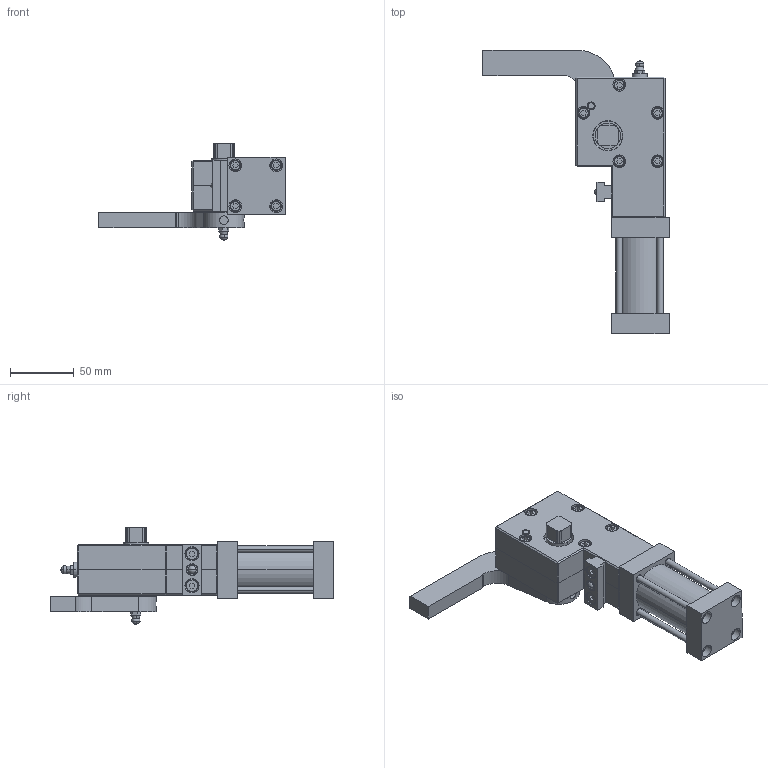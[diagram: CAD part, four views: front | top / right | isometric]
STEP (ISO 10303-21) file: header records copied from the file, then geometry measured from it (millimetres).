
FILE_DESCRIPTION (( 'STEP AP214' ), '1' );
FILE_NAME ('P32H-32.STEP', '2020-06-04T14:15:29', ( '' ), ( '' ), 'SwSTEP 2.0', 'SolidWorks 2015', '' );
FILE_SCHEMA (( 'AUTOMOTIVE_DESIGN' ));
Length unit declared in the file: millimetre
Products named in the file (18): P32H-32.sldasm-Part-34; P32H-32.sldasm-Part-33; P32H-32.sldasm-Part-32; P32H-32.sldasm-Part-31; P32H-32.sldasm-Part-30; P32H-32.sldasm-Part-22; P32H-32.sldasm-Part-21; P32H-32.sldasm-Part-20; P32H-32.sldasm-Part-19; P32H-32.sldasm-Part-15; P32H-32.sldasm-Part-13; P32H-32.sldasm-Part-12; P32H-32.sldasm-Part-11; P32H-32.sldasm-Part-9; P32H-32.sldasm-Part-6; P32H-32.sldasm-Part-2; P32H-32; P32H-32.sldasm-Part-35
Assembly tree (27 placements, depth 2):
  P32H-32
    P32H-32.sldasm-Part-2  x2
    P32H-32.sldasm-Part-6
    P32H-32.sldasm-Part-9
    P32H-32.sldasm-Part-11  x2
    P32H-32.sldasm-Part-12
    P32H-32.sldasm-Part-13  x2
    P32H-32.sldasm-Part-15
    P32H-32.sldasm-Part-19
    P32H-32.sldasm-Part-20  x5
    P32H-32.sldasm-Part-21  x4
    P32H-32.sldasm-Part-22
    P32H-32.sldasm-Part-30
    P32H-32.sldasm-Part-31
    P32H-32.sldasm-Part-32
    P32H-32.sldasm-Part-33
    P32H-32.sldasm-Part-34
    P32H-32.sldasm-Part-35
Bounding box: 145.93 x 222.02 x 75.8 mm (x, y, z)
Volume: 498871 mm3; surface area: 115858 mm2
Topology: 27 solids, 34 shells, 745 faces, 1670 edges, 1028 vertices
Faces by surface type: plane 314, cylinder 221, cone 168, torus 30, sphere 8, bspline 4
Entity records: 16879 total; most frequent: CARTESIAN_POINT 3114, DIRECTION 2927, ORIENTED_EDGE 2502, EDGE_CURVE 1251, AXIS2_PLACEMENT_3D 1117, VERTEX_POINT 780, LINE 693, VECTOR 693
